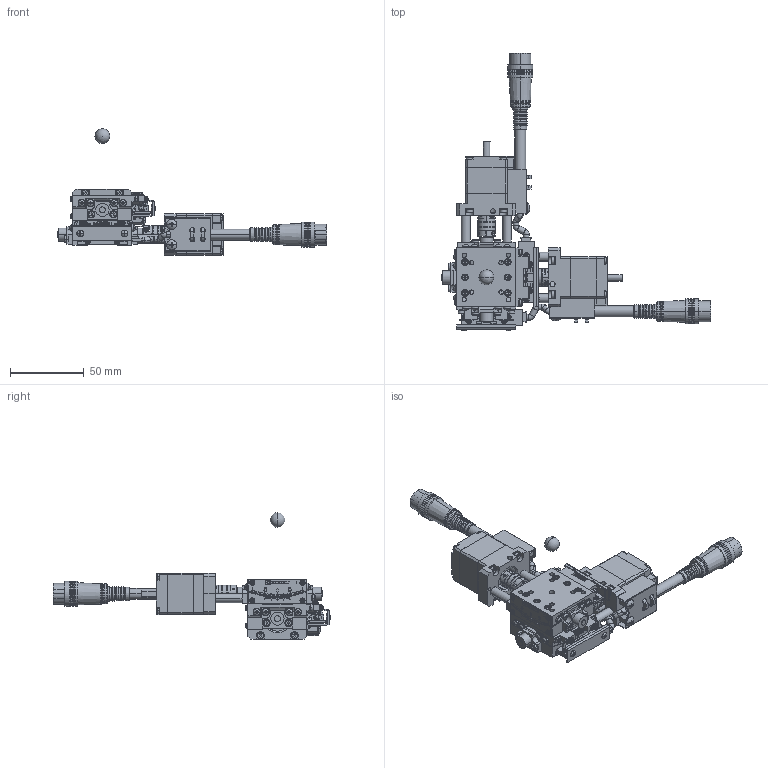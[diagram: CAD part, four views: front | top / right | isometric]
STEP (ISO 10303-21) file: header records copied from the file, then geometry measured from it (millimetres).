
FILE_DESCRIPTION (( 'STEP AP203' ), '1' );
FILE_NAME ('SA04B-RS02-RRR.STEP', '2019-02-26T08:39:02', ( '' ), ( '' ), 'SwSTEP 2.0', 'SolidWorks 2018', '' );
FILE_SCHEMA (( 'CONFIG_CONTROL_DESIGN' ));
Length unit declared in the file: millimetre
Products named in the file (15): second table-Part-2; second table-Part-5; table; base; rotation center; base-Part-3; second table-Part-4; SA04B-RS02-RRR; base-Part-1; base-Part-5; second table-Part-3; base-Part-4; base-Part-2; second table-Part-1; second table
Assembly tree (14 placements, depth 3):
  SA04B-RS02-RRR
    base
      base-Part-1
      base-Part-2
      base-Part-3
      base-Part-4
      base-Part-5
    second table
      second table-Part-1
      second table-Part-2
      second table-Part-3
      second table-Part-4
      second table-Part-5
    rotation center
    table
Bounding box: 182.5 x 188.18 x 85.8 mm (x, y, z)
Volume: 150458.6 mm3; surface area: 75661.9 mm2
Topology: 22 solids, 24 shells, 5140 faces, 13042 edges, 8144 vertices
Faces by surface type: plane 3284, cylinder 1142, cone 484, torus 128, sphere 90, bspline 12
Entity records: 159735 total; most frequent: CARTESIAN_POINT 32363, DIRECTION 27012, ORIENTED_EDGE 25722, EDGE_CURVE 12861, AXIS2_PLACEMENT_3D 9370, LINE 8272, VECTOR 8272, VERTEX_POINT 8113
